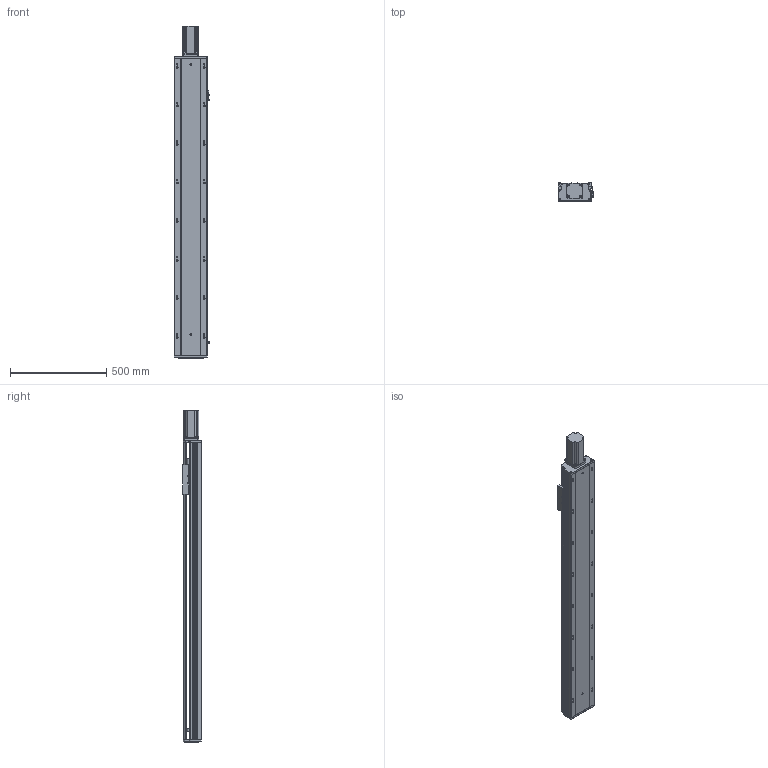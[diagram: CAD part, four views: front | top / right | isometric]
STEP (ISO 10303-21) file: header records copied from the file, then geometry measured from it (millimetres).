
FILE_DESCRIPTION (( 'STEP AP203' ), '1' );
FILE_NAME ('RY170-L2510-1200-MK.SLDASM_1200.step', '2021-02-20T05:12:05', ( '盈信电脑' ), ( '东莞市道滘镇水果街19号' ), 'SwSTEP 2.0', 'SolidWorks 2012', '' );
FILE_SCHEMA (( 'CONFIG_CONTROL_DESIGN' ));
Products named in the file (12): 侂狟750W萇儂ㄗ80遺ㄘ; 750W萇儂梓袧蛌諉啣; RY170-L2510-1200-MK.SLDASM_1200; RY170ヶ醱裔啣; RY170外置感应片(200共用）; 滅袉蝶18-15; 滅袉蝶18-28; RY170綴裔啣; RY170臏賑輸25佪裝蹟譫; 覜茼ん672; RY170-1200倰第菁釱-MK_1200; RY170-1200倰第裔啣-MK_1200
Assembly tree (13 placements, depth 2):
  RY170-L2510-1200-MK.SLDASM_1200
    RY170-1200倰第菁釱-MK_1200
    RY170-1200倰第裔啣-MK_1200
    RY170臏賑輸25佪裝蹟譫
    RY170綴裔啣
    覜茼ん672  x3
    RY170外置感应片(200共用）
    RY170ヶ醱裔啣
    滅袉蝶18-28
    滅袉蝶18-15
    750W萇儂梓袧蛌諉啣
    侂狟750W萇儂ㄗ80遺ㄘ
Bounding box: 183.7 x 97 x 1721 mm (x, y, z)
Volume: 8088875.2 mm3; surface area: 2552251.8 mm2
Topology: 13 solids, 13 shells, 1662 faces, 4875 edges, 3096 vertices
Faces by surface type: cylinder 760, plane 711, cone 187, bspline 4
Entity records: 52830 total; most frequent: CARTESIAN_POINT 12036, ORIENTED_EDGE 8470, DIRECTION 8130, EDGE_CURVE 4235, AXIS2_PLACEMENT_3D 2870, VERTEX_POINT 2776, VECTOR 2390, LINE 2390
